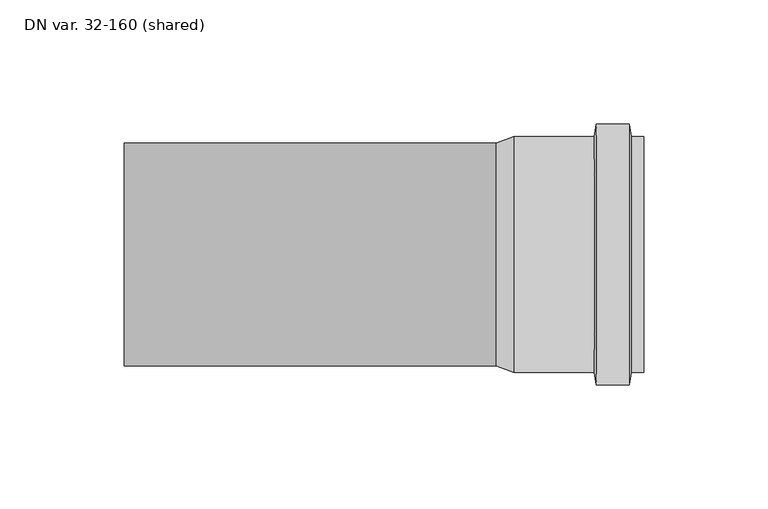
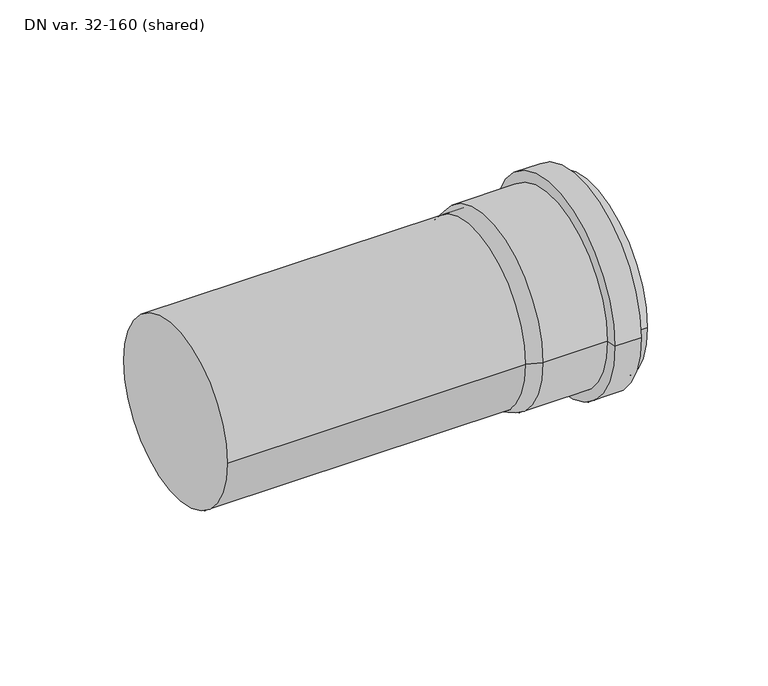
"""IFC4 building model written with IfcOpenShell, lengths in millimetres: pipe segment geometry, ZZZ_Master 3+ pipe -sh_Pipelife : DN var. 32-160 (shared)."""

from ifc_helpers import new_model, si_unit, point, frame, origin, origin_2d, place, context, project, spatial, polyline, circle_curve, trimmed, segment, composite_curve, outline, extrude, source, transform, mapped, element, save
from ifc_brep_helpers import plane_surface, cylinder_surface, revolved_surface, advanced_brep


def dn_var_32_160_shared_e618d308(model_context):
    return source(origin(), model_context, "Body", "SolidModel", [
        advanced_brep(
        [(75.0, 45.0, 0.0), (75.0, -45.0, 0.0), (134.6, -45.0, 0.0), (134.6, 45.0, 0.0), (82.1434413, 47.6, 0.0), (82.1434413, -47.6, 0.0), (114.5, 47.6, 0.0), (114.5, -47.6, 0.0), (115.3948594, 52.675, 0.0), (115.3948594, -52.675, 0.0), (128.6051406, 52.675, 0.0), (128.6051406, -52.675, 0.0), (129.5, 47.6, 0.0), (129.5, -47.6, 0.0), (134.6, 47.6, 0.0), (134.6, -47.6, 0.0)],
        [
            (0, 1, circle_curve(frame((75.0, 0.0, 0.0), z_axis=(-1.0, 0.0, 0.0), x_axis=(0.0, -1.0000000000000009, 0.0)), 45.0)),
            (1, 2),
            (2, 3, circle_curve(frame((134.6, 0.0, 0.0), z_axis=(1.0, 0.0, 0.0), x_axis=(0.0, -1.0000000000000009, 0.0)), 45.0)),
            (3, 0),
            (1, 0, circle_curve(frame((75.0, 0.0, 0.0), z_axis=(-1.0, 0.0, 0.0), x_axis=(0.0, -1.0000000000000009, 0.0)), 45.0)),
            (3, 2, circle_curve(frame((134.6, 0.0, 0.0), z_axis=(1.0, 0.0, 0.0), x_axis=(0.0, -1.0000000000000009, 0.0)), 45.0)),
            (4, 5, circle_curve(frame((82.1434413, 0.0, 0.0), z_axis=(-1.0, 0.0, 0.0), x_axis=(0.0, -1.0000000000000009, 0.0)), 47.6)),
            (5, 1),
            (0, 4),
            (5, 4, circle_curve(frame((82.1434413, 0.0, 0.0), z_axis=(-1.0, 0.0, 0.0), x_axis=(0.0, -1.0000000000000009, 0.0)), 47.6)),
            (6, 7, circle_curve(frame((114.5, 0.0, 0.0), z_axis=(-1.0, 0.0, 0.0), x_axis=(0.0, -1.0000000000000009, 0.0)), 47.6)),
            (7, 5),
            (4, 6),
            (7, 6, circle_curve(frame((114.5, 0.0, 0.0), z_axis=(-1.0, 0.0, 0.0), x_axis=(0.0, -1.0000000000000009, 0.0)), 47.6)),
            (8, 9, circle_curve(frame((115.3948594, 0.0, 0.0), z_axis=(-1.0, 0.0, 0.0), x_axis=(0.0, -1.0000000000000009, 0.0)), 52.675)),
            (9, 7),
            (6, 8),
            (9, 8, circle_curve(frame((115.3948594, 0.0, 0.0), z_axis=(-1.0, 0.0, 0.0), x_axis=(0.0, -1.0000000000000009, 0.0)), 52.675)),
            (10, 11, circle_curve(frame((128.6051406, 0.0, 0.0), z_axis=(-1.0, 0.0, 0.0), x_axis=(0.0, -1.0000000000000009, 0.0)), 52.675)),
            (11, 9),
            (8, 10),
            (11, 10, circle_curve(frame((128.6051406, 0.0, 0.0), z_axis=(-1.0, 0.0, 0.0), x_axis=(0.0, -1.0000000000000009, 0.0)), 52.675)),
            (12, 13, circle_curve(frame((129.5, 0.0, 0.0), z_axis=(-1.0, 0.0, 0.0), x_axis=(0.0, -1.0000000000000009, 0.0)), 47.6)),
            (13, 11),
            (10, 12),
            (13, 12, circle_curve(frame((129.5, 0.0, 0.0), z_axis=(-1.0, 0.0, 0.0), x_axis=(0.0, -1.0000000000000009, 0.0)), 47.6)),
            (14, 15, circle_curve(frame((134.6, 0.0, 0.0), z_axis=(-1.0, 0.0, 0.0), x_axis=(0.0, -1.0000000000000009, 0.0)), 47.6)),
            (15, 13),
            (12, 14),
            (15, 14, circle_curve(frame((134.6, 0.0, 0.0), z_axis=(-1.0, 0.0, 0.0), x_axis=(0.0, -1.0000000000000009, 0.0)), 47.6)),
            (2, 15),
            (14, 3),
        ],
        [
            revolved_surface(polyline([(134.6, -45.00000000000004, 0.0), (74.99999999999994, -45.00000000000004, 0.0)]), (144.6, 0.0, 0.0), (1.0000000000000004, 0.0, 0.0)),
            revolved_surface(polyline([(75.0, -45.0, 0.0), (82.1434413, -47.6, 0.0)]), (144.6, 0.0, 0.0), (1.0000000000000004, 0.0, 0.0)),
            cylinder_surface(frame((144.6, 0.0, 0.0), z_axis=(1.0000000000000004, 0.0, 0.0), x_axis=(0.0, -1.0000000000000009, 0.0)), 47.6),
            revolved_surface(polyline([(114.5, -47.6, 0.0), (115.3948594, -52.675, 0.0)]), (144.6, 0.0, 0.0), (1.0000000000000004, 0.0, 0.0)),
            cylinder_surface(frame((144.6, 0.0, 0.0), z_axis=(1.0000000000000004, 0.0, 0.0), x_axis=(0.0, -1.0000000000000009, 0.0)), 52.675),
            revolved_surface(polyline([(128.6051406, -52.675, 0.0), (129.5, -47.6, 0.0)]), (144.6, 0.0, 0.0), (1.0000000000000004, 0.0, 0.0)),
            plane_surface(frame((134.6, 0.0, 0.0), z_axis=(1.0, 0.0, 0.0), x_axis=(0.0, -1.0, 0.0))),
        ],
        [
            (0, [[1, 2, 3, 4]]),
            (0, [[5, -4, 6, -2]]),
            (1, [[7, 8, -1, 9]]),
            (1, [[10, -9, -5, -8]]),
            (2, [[11, 12, -7, 13]]),
            (2, [[14, -13, -10, -12]]),
            (3, [[15, 16, -11, 17]]),
            (3, [[18, -17, -14, -16]]),
            (4, [[19, 20, -15, 21]]),
            (4, [[22, -21, -18, -20]]),
            (5, [[23, 24, -19, 25]]),
            (5, [[26, -25, -22, -24]]),
            (2, [[27, 28, -23, 29]]),
            (2, [[30, -29, -26, -28]]),
            (6, [[-3, 31, -27, 32]]),
            (6, [[-6, -32, -30, -31]]),
        ],
    ),
        extrude(outline(composite_curve([segment(trimmed(circle_curve(origin_2d(), 45.0), [point((-45.0, 0.0))], [point((45.0, 0.0))], False, "CARTESIAN"), True, "CONTINUOUS"), segment(trimmed(circle_curve(origin_2d(), 45.0), [point((45.0, 0.0))], [point((-45.0, 0.0))], False, "CARTESIAN"), True, "CONTINUOUS")], self_intersect=False)), frame((-75.0, 0.0, 0.0), z_axis=(1.0, 0.0, 0.0), x_axis=(0.0, 1.0, 0.0)), (0.0, 0.0, 1.0), 150.0),
    ])


if __name__ == "__main__":
    model = new_model("IFC4")
    model_context = context("Model", 3, world=origin())
    ifc_project = project(units=[si_unit("LENGTHUNIT", "METRE", prefix="MILLI")], contexts=[model_context])
    site = spatial("IfcSite", under=ifc_project)
    building = spatial("IfcBuilding", under=site)
    placement = place(None, origin())
    dn_var_32_160_shared_shape = dn_var_32_160_shared_e618d308(model_context)
    element("IfcPipeSegment", 1, ObjectType="ZZZ_Master 3+ pipe -sh_Pipelife : DN var. 32-160 (shared)", at=placement, inside=building, context=model_context, shape_type="MappedRepresentation", body=[
        mapped(dn_var_32_160_shared_shape, transform((0.0, 0.0, 0.0), x_axis=(1.0, 0.0, 0.0), y_axis=(0.0, 1.0, 0.0), z_axis=(0.0, 0.0, 1.0))),
    ])
    save(model, "model.ifc")
